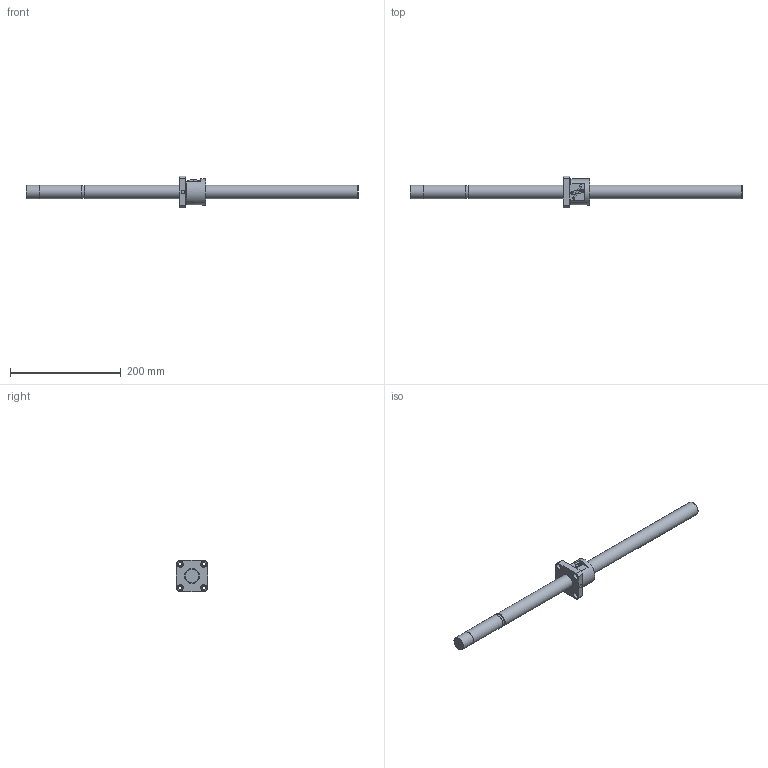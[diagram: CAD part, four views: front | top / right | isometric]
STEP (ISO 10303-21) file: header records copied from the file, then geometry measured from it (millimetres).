
FILE_DESCRIPTION((''),'2;1');
FILE_NAME('D:\製品 (図面)\カタログ用3D\ネジ関連\STEP形式\KBS(C)\KBS(C)2505-600.stp','2010-06-02T14:19:31',('Tsuchiya'),(''),'Autodesk Inventor 10','Autodesk Inventor 10','');
FILE_SCHEMA(('AUTOMOTIVE_DESIGN { 1 0 10303 214 1 1 1 1 }'));
Length unit declared in the file: millimetre
Products named in the file (3): KBS(C)2505-600; KBS(C)2505-6001; KBS(C)2505-6002
Assembly tree (2 placements, depth 2):
  KBS(C)2505-600
    KBS(C)2505-6001
    KBS(C)2505-6002
Bounding box: 600 x 57 x 57 mm (x, y, z)
Volume: 363439.6 mm3; surface area: 67286.5 mm2
Topology: 2 solids, 2 shells, 95 faces, 243 edges, 160 vertices
Faces by surface type: plane 42, cylinder 31, bspline 16, cone 4, torus 2
Full cylindrical faces by diameter (mm): 3.2 x1, 5.6 x1, 6 x1, 6.6 x4, 11 x4, 22.5 x1, 24.5 x1, 25 x3, 27 x2, 47 x1
Entity records: 3006 total; most frequent: CARTESIAN_POINT 805, DIRECTION 418, ORIENTED_EDGE 408, EDGE_CURVE 204, AXIS2_PLACEMENT_3D 156, VERTEX_POINT 150, EDGE_LOOP 150, VECTOR 106
